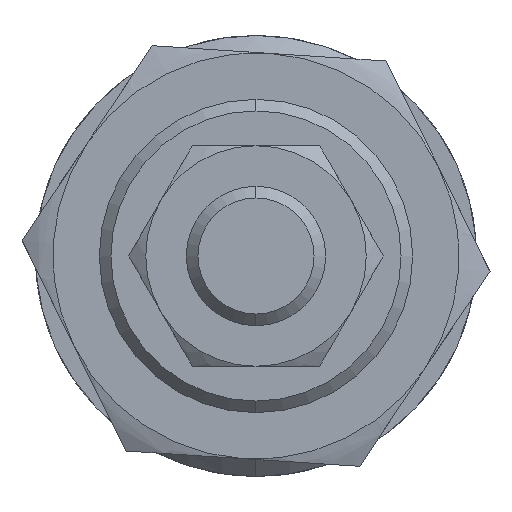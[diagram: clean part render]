
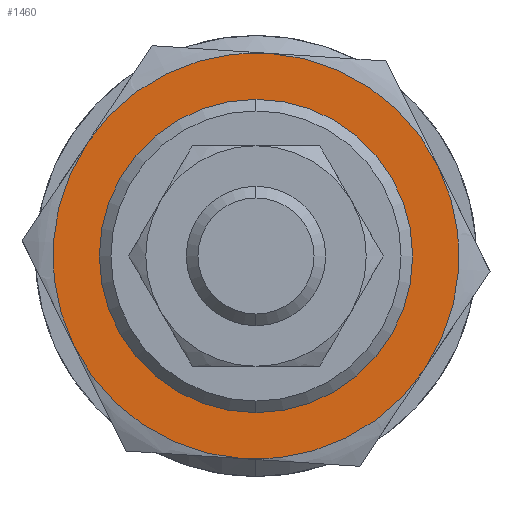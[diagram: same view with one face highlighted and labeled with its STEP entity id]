
A CAD part, left-side view. The second image highlights one B-rep face of the part: STEP entity #1460.
In plain terms, the highlighted planar face has unit normal (-1, 0, 0) as drawn and (0, 0, -1) by its records, which use the part's own axes.
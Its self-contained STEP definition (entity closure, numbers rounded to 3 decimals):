
#32 = ORIENTED_EDGE ( 'NONE', *, *, #725, .F. ) ;
#145 = AXIS2_PLACEMENT_3D ( 'NONE', #768, #2549, #3039 ) ;
#171 = AXIS2_PLACEMENT_3D ( 'NONE', #1478, #961, #183 ) ;
#183 = DIRECTION ( 'NONE',  ( 1., 0., 0. ) ) ;
#204 = DIRECTION ( 'NONE',  ( 1., 0., 0. ) ) ;
#336 = ORIENTED_EDGE ( 'NONE', *, *, #3218, .T. ) ;
#441 = CARTESIAN_POINT ( 'NONE',  ( 8.75, 15.155, -5. ) ) ;
#473 = CARTESIAN_POINT ( 'NONE',  ( 0., 0., -5. ) ) ;
#486 = AXIS2_PLACEMENT_3D ( 'NONE', #2526, #1738, #1001 ) ;
#532 = VERTEX_POINT ( 'NONE', #441 ) ;
#596 = FACE_OUTER_BOUND ( 'NONE', #1618, .T. ) ;
#638 = CARTESIAN_POINT ( 'NONE',  ( -8.75, 15.155, -5. ) ) ;
#668 = DIRECTION ( 'NONE',  ( 0., 0., 1. ) ) ;
#719 = AXIS2_PLACEMENT_3D ( 'NONE', #1954, #668, #2463 ) ;
#725 = EDGE_CURVE ( 'NONE', #2686, #2745, #2263, .T. ) ;
#735 = PLANE ( 'NONE',  #1392 ) ;
#768 = CARTESIAN_POINT ( 'NONE',  ( 0., 0., -5. ) ) ;
#826 = ORIENTED_EDGE ( 'NONE', *, *, #1304, .F. ) ;
#864 = CARTESIAN_POINT ( 'NONE',  ( 17.5, 0., -5. ) ) ;
#912 = ORIENTED_EDGE ( 'NONE', *, *, #2043, .F. ) ;
#932 = CIRCLE ( 'NONE', #1412, 17.5 ) ;
#961 = DIRECTION ( 'NONE',  ( 0., 0., 1. ) ) ;
#977 = CARTESIAN_POINT ( 'NONE',  ( 12.5, 0., -5. ) ) ;
#992 = DIRECTION ( 'NONE',  ( 1., 0., 0. ) ) ;
#1001 = DIRECTION ( 'NONE',  ( 1., 0., 0. ) ) ;
#1043 = ORIENTED_EDGE ( 'NONE', *, *, #1862, .F. ) ;
#1248 = CIRCLE ( 'NONE', #3317, 12.5 ) ;
#1256 = CARTESIAN_POINT ( 'NONE',  ( 0., 0., -5. ) ) ;
#1304 = EDGE_CURVE ( 'NONE', #2257, #1402, #1610, .T. ) ;
#1346 = VERTEX_POINT ( 'NONE', #3191 ) ;
#1392 = AXIS2_PLACEMENT_3D ( 'NONE', #2016, #1501, #992 ) ;
#1402 = VERTEX_POINT ( 'NONE', #2507 ) ;
#1412 = AXIS2_PLACEMENT_3D ( 'NONE', #2780, #3280, #204 ) ;
#1450 = EDGE_CURVE ( 'NONE', #2745, #532, #2890, .T. ) ;
#1460 = ADVANCED_FACE ( 'NONE', ( #1572, #596 ), #735, .F. ) ;
#1478 = CARTESIAN_POINT ( 'NONE',  ( 0., 0., -5. ) ) ;
#1501 = DIRECTION ( 'NONE',  ( 0., 0., 1. ) ) ;
#1527 = DIRECTION ( 'NONE',  ( 0., 0., 1. ) ) ;
#1572 = FACE_BOUND ( 'NONE', #1837, .T. ) ;
#1582 = ORIENTED_EDGE ( 'NONE', *, *, #2856, .T. ) ;
#1610 = CIRCLE ( 'NONE', #719, 17.5 ) ;
#1618 = EDGE_LOOP ( 'NONE', ( #1881, #32, #1043, #912, #826, #2957 ) ) ;
#1685 = EDGE_CURVE ( 'NONE', #532, #2257, #932, .T. ) ;
#1738 = DIRECTION ( 'NONE',  ( 0., 0., 1. ) ) ;
#1837 = EDGE_LOOP ( 'NONE', ( #336, #1582 ) ) ;
#1849 = VERTEX_POINT ( 'NONE', #977 ) ;
#1862 = EDGE_CURVE ( 'NONE', #1346, #2686, #3008, .T. ) ;
#1867 = DIRECTION ( 'NONE',  ( 0., 0., 1. ) ) ;
#1881 = ORIENTED_EDGE ( 'NONE', *, *, #1450, .F. ) ;
#1954 = CARTESIAN_POINT ( 'NONE',  ( 0., 0., -5. ) ) ;
#1980 = AXIS2_PLACEMENT_3D ( 'NONE', #473, #3028, #3295 ) ;
#2016 = CARTESIAN_POINT ( 'NONE',  ( 0., 0., -5. ) ) ;
#2043 = EDGE_CURVE ( 'NONE', #1402, #1346, #2217, .T. ) ;
#2076 = CARTESIAN_POINT ( 'NONE',  ( 8.75, -15.155, -5. ) ) ;
#2159 = DIRECTION ( 'NONE',  ( 1., 0., 0. ) ) ;
#2172 = CARTESIAN_POINT ( 'NONE',  ( 0., 0., -5. ) ) ;
#2217 = CIRCLE ( 'NONE', #2737, 17.5 ) ;
#2257 = VERTEX_POINT ( 'NONE', #638 ) ;
#2263 = CIRCLE ( 'NONE', #145, 17.5 ) ;
#2463 = DIRECTION ( 'NONE',  ( 1., 0., 0. ) ) ;
#2507 = CARTESIAN_POINT ( 'NONE',  ( -17.5, 0., -5. ) ) ;
#2526 = CARTESIAN_POINT ( 'NONE',  ( 0., 0., -5. ) ) ;
#2549 = DIRECTION ( 'NONE',  ( 0., 0., 1. ) ) ;
#2645 = CARTESIAN_POINT ( 'NONE',  ( -12.5, 0., -5. ) ) ;
#2686 = VERTEX_POINT ( 'NONE', #2076 ) ;
#2726 = VERTEX_POINT ( 'NONE', #2645 ) ;
#2737 = AXIS2_PLACEMENT_3D ( 'NONE', #1256, #1527, #3310 ) ;
#2745 = VERTEX_POINT ( 'NONE', #864 ) ;
#2780 = CARTESIAN_POINT ( 'NONE',  ( 0., 0., -5. ) ) ;
#2856 = EDGE_CURVE ( 'NONE', #2726, #1849, #1248, .T. ) ;
#2890 = CIRCLE ( 'NONE', #1980, 17.5 ) ;
#2957 = ORIENTED_EDGE ( 'NONE', *, *, #1685, .F. ) ;
#3008 = CIRCLE ( 'NONE', #171, 17.5 ) ;
#3028 = DIRECTION ( 'NONE',  ( 0., 0., 1. ) ) ;
#3039 = DIRECTION ( 'NONE',  ( 1., 0., 0. ) ) ;
#3191 = CARTESIAN_POINT ( 'NONE',  ( -8.75, -15.155, -5. ) ) ;
#3218 = EDGE_CURVE ( 'NONE', #1849, #2726, #3230, .T. ) ;
#3230 = CIRCLE ( 'NONE', #486, 12.5 ) ;
#3280 = DIRECTION ( 'NONE',  ( 0., 0., 1. ) ) ;
#3295 = DIRECTION ( 'NONE',  ( 1., 0., 0. ) ) ;
#3310 = DIRECTION ( 'NONE',  ( 1., 0., 0. ) ) ;
#3317 = AXIS2_PLACEMENT_3D ( 'NONE', #2172, #1867, #2159 ) ;
